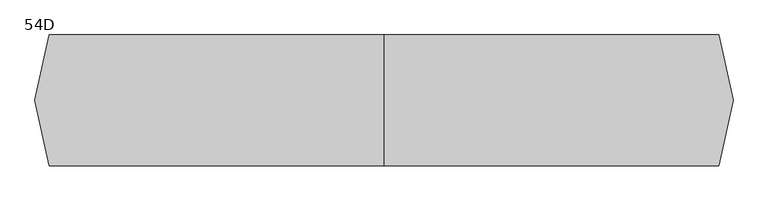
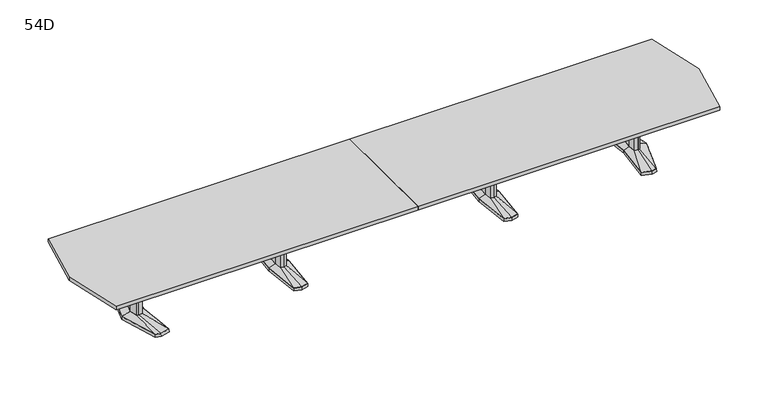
"""IFC4 building model written with IfcOpenShell, lengths in millimetres: furniture geometry, Coalesse_AM_Table_Conference_ETable2_Faceted_24ft_AluminiumBase : 54D."""

import ifcopenshell
import ifcopenshell.guid

model = None  # the IFC model being written
_history = None  # IfcOwnerHistory: only IFC2X3 demands one
_inside = {}  # id of a spatial element -> (the spatial element, [elements in it])
_under = {}  # id of a project, library or spatial element -> (it, [spatial elements below it])
_declared = {}  # id of a project -> (the project, [libraries it declares])
_typed = {}  # id of a type object -> (the type object, [elements of that type])
_made_of = {}  # id of a material, layer set ... -> (it, [elements and type objects made of it])


def new_model(schema):
    """Start an empty IFC model of exactly this schema.

    Asked for "IFC4X3", IfcOpenShell would pick the latest addendum, in which some entities
    have other attributes; the version numbers below select the first issue.
    IFC2X3 requires an IfcOwnerHistory on every rooted entity: one is made here for all.
    """
    global model, _history
    if schema == "IFC4X3":
        model = ifcopenshell.file(schema_version=(4, 3, 0, 0))
    else:
        model = ifcopenshell.file(schema=schema)
    _inside.clear()
    _under.clear()
    _declared.clear()
    _typed.clear()
    _made_of.clear()
    _history = None
    if model.schema == "IFC2X3":
        org = make("IfcOrganization", Name="unknown")
        user = make(
            "IfcPersonAndOrganization",
            ThePerson=make("IfcPerson", FamilyName="unknown"),
            TheOrganization=org,
        )
        app = make(
            "IfcApplication",
            ApplicationDeveloper=org,
            Version="unknown",
            ApplicationFullName="unknown",
            ApplicationIdentifier="unknown",
        )
        _history = make(
            "IfcOwnerHistory",
            OwningUser=user,
            OwningApplication=app,
            ChangeAction="ADDED",
            CreationDate=0,
        )
    return model


def make(cls, **values):
    """One entity of the class cls with the attributes given. An attribute that is None is left unset."""
    return model.create_entity(
        cls, **{name: value for name, value in values.items() if value is not None}
    )


def rooted(cls, **values):
    """An entity with a GlobalId (a new one), such as an element, a storey or a relation."""
    return make(cls, GlobalId=ifcopenshell.guid.new(), OwnerHistory=_history, **values)


def si_unit(unit_type, name, prefix=None):
    """IfcSIUnit, for example si_unit("LENGTHUNIT", "METRE", prefix="MILLI")."""
    return make("IfcSIUnit", UnitType=unit_type, Prefix=prefix, Name=name)


def assignment(units):
    """IfcUnitAssignment: the units of a project."""
    return None if units is None else make("IfcUnitAssignment", Units=units)


def point(xyz):
    """IfcCartesianPoint."""
    return None if xyz is None else make("IfcCartesianPoint", Coordinates=xyz)


def direction(xyz):
    """IfcDirection."""
    return None if xyz is None else make("IfcDirection", DirectionRatios=xyz)


def frame(location, z_axis=None, x_axis=None):
    """IfcAxis2Placement3D, a coordinate frame: its origin and axes. An axis left out is left unset."""
    return make(
        "IfcAxis2Placement3D",
        Location=point(location),
        Axis=direction(z_axis),
        RefDirection=direction(x_axis),
    )


def origin():
    """The frame at (0, 0, 0) with its axes left unset."""
    return frame((0.0, 0.0, 0.0))


def place(relative_to, where):
    """IfcLocalPlacement: puts the frame where relative to a parent placement (None: the world)."""
    return make(
        "IfcLocalPlacement", PlacementRelTo=relative_to, RelativePlacement=where
    )


def context(
    kind, dimensions, precision=None, world=None, true_north=None, identifier=None
):
    """IfcGeometricRepresentationContext, for example the 3D "Model" context."""
    return make(
        "IfcGeometricRepresentationContext",
        ContextIdentifier=identifier,
        ContextType=kind,
        CoordinateSpaceDimension=dimensions,
        Precision=precision,
        WorldCoordinateSystem=world,
        TrueNorth=true_north,
    )


def project(units=None, contexts=None):
    """IfcProject with its units and contexts."""
    return rooted(
        "IfcProject",
        Name="project",
        RepresentationContexts=contexts,
        UnitsInContext=assignment(units),
    )


def spatial(cls, under=None, at=None, **own):
    """A site, building, storey or space (cls), placed at a placement, below another one or the project."""
    s = rooted(cls, ObjectPlacement=at, **own)
    if under is not None:
        _under.setdefault(under.id(), (under, []))[1].append(s)
    return s


def polyline(points):
    """IfcPolyline through the points."""
    return make("IfcPolyline", Points=[point(p) for p in points])


def outline(outer, holes=None, kind="AREA"):
    """IfcArbitraryClosedProfileDef: a profile drawn as a closed curve; with holes, ...WithVoids."""
    if holes is None:
        return make("IfcArbitraryClosedProfileDef", ProfileType=kind, OuterCurve=outer)
    return make(
        "IfcArbitraryProfileDefWithVoids",
        ProfileType=kind,
        OuterCurve=outer,
        InnerCurves=holes,
    )


def extrude(swept, where, along, depth):
    """IfcExtrudedAreaSolid: the profile swept, set in the frame where, extruded along a direction by depth."""
    return make(
        "IfcExtrudedAreaSolid",
        SweptArea=swept,
        Position=where,
        ExtrudedDirection=direction(along),
        Depth=depth,
    )


def faces_of(points, faces, orient=None, outer=None):
    """IfcFace entities. A face is a list of loops; a loop is a list of indices into points, from 0.

    orient and outer hold one flag for each loop. By default every Orientation is true, the
    first loop of a face is its IfcFaceOuterBound and the others are IfcFaceBound.
    """
    made = []
    for i, loops in enumerate(faces):
        bounds = []
        for j, loop in enumerate(loops):
            is_outer = j == 0 if outer is None else outer[i][j]
            bounds.append(
                make(
                    "IfcFaceOuterBound" if is_outer else "IfcFaceBound",
                    Bound=make("IfcPolyLoop", Polygon=[points[k] for k in loop]),
                    Orientation=True if orient is None else orient[i][j],
                )
            )
        made.append(make("IfcFace", Bounds=bounds))
    return made


def faceted_brep(points, faces, orient=None, outer=None, voids=None):
    """IfcFacetedBrep: a solid bounded by flat faces; with voids (closed shells), ...WithVoids."""
    shared = [point(p) for p in points]
    hull = make("IfcClosedShell", CfsFaces=faces_of(shared, faces, orient, outer))
    if voids is None:
        return make("IfcFacetedBrep", Outer=hull)
    return make(
        "IfcFacetedBrepWithVoids",
        Outer=hull,
        Voids=[
            make(cls, CfsFaces=faces_of(shared, fs, o, b)) for cls, fs, o, b in voids
        ],
    )


def shape(context_of_items, identifier, shape_type, items):
    """IfcShapeRepresentation: the items that make up one representation, for example the "Body"."""
    return make(
        "IfcShapeRepresentation",
        ContextOfItems=context_of_items,
        RepresentationIdentifier=identifier,
        RepresentationType=shape_type,
        Items=items,
    )


def source(mapping_origin, context_of_items, identifier, shape_type, items):
    """IfcRepresentationMap: a shape defined once, which mapped items show again and again."""
    return make(
        "IfcRepresentationMap",
        MappingOrigin=mapping_origin,
        MappedRepresentation=shape(context_of_items, identifier, shape_type, items),
    )


def transform(
    local_origin,
    x_axis=None,
    y_axis=None,
    z_axis=None,
    scale=None,
    scale2=None,
    scale3=None,
    uniform=True,
):
    """IfcCartesianTransformationOperator3D, or its non-uniform kind. x_axis, y_axis, z_axis: its Axis1, 2, 3."""
    if uniform:
        return make(
            "IfcCartesianTransformationOperator3D",
            Axis1=direction(x_axis),
            Axis2=direction(y_axis),
            LocalOrigin=point(local_origin),
            Scale=scale,
            Axis3=direction(z_axis),
        )
    return make(
        "IfcCartesianTransformationOperator3DnonUniform",
        Axis1=direction(x_axis),
        Axis2=direction(y_axis),
        LocalOrigin=point(local_origin),
        Scale=scale,
        Axis3=direction(z_axis),
        Scale2=scale2,
        Scale3=scale3,
    )


def mapped(mapping_source, mapping_target):
    """IfcMappedItem: shows the shape of a source again, moved by a transform."""
    return make(
        "IfcMappedItem", MappingSource=mapping_source, MappingTarget=mapping_target
    )


def made_of(thing, what):
    """Note that an element or type object is made of a material, layer set ...; save() writes the relation."""
    if what is not None:
        _made_of.setdefault(what.id(), (what, []))[1].append(thing)
    return thing


def element(
    cls,
    number,
    at=None,
    inside=None,
    cuts=None,
    type_object=None,
    material=None,
    context=None,
    identifier="Body",
    shape_type=None,
    held_by="IfcProductDefinitionShape",
    body=None,
    shapes=None,
    **own,
):
    """One element of the class cls, such as IfcWall. Its Tag is "e" and its number.

    at: its placement. inside: the storey or other place that contains it. cuts: it is an
    opening in that element (IfcRelVoidsElement). A single representation is given by context,
    identifier, shape_type and body (its items); several are given by shapes. held_by: the class
    of the entity that holds the representations. save() writes the other relations.
    """
    e = rooted(cls, Tag="e%d" % number, ObjectPlacement=at, **own)
    if body is not None:
        shapes = [shape(context, identifier, shape_type, body)]
    if shapes is not None:
        e.Representation = make(held_by, Representations=shapes)
    if inside is not None:
        _inside.setdefault(inside.id(), (inside, []))[1].append(e)
    if cuts is not None:
        rooted(
            "IfcRelVoidsElement", RelatingBuildingElement=cuts, RelatedOpeningElement=e
        )
    if type_object is not None:
        _typed.setdefault(type_object.id(), (type_object, []))[1].append(e)
    return made_of(e, material)


def aggregate(whole, parts):
    """IfcRelAggregates: a whole, such as a stair, and the parts it consists of."""
    return rooted("IfcRelAggregates", RelatingObject=whole, RelatedObjects=parts)


def save(model, path):
    """Write the relations noted so far, then the file.

    IfcRelAggregates (storeys below a building ...), IfcRelContainedInSpatialStructure (elements
    in a storey), IfcRelDefinesByType, IfcRelAssociatesMaterial and IfcRelDeclares: one each for
    every whole, place, type object, material and project.
    """
    for whole, parts in _under.values():
        aggregate(whole, parts)
    for where, things in _inside.values():
        rooted(
            "IfcRelContainedInSpatialStructure",
            RelatedElements=things,
            RelatingStructure=where,
        )
    for kind, things in _typed.values():
        rooted("IfcRelDefinesByType", RelatedObjects=things, RelatingType=kind)
    for what, things in _made_of.values():
        rooted("IfcRelAssociatesMaterial", RelatedObjects=things, RelatingMaterial=what)
    for by, libraries in _declared.values():
        rooted("IfcRelDeclares", RelatingContext=by, RelatedDefinitions=libraries)
    model.write(path)


def plane_surface(at):
    """IfcPlane: the flat surface through the origin of the frame at, square to its z axis."""
    return make("IfcPlane", Position=at)


def spline_surface(u_degree, v_degree, points, u_multiplicities, v_multiplicities, u_knots, v_knots, weights=None):
    """IfcBSplineSurfaceWithKnots; with weights, IfcRationalBSplineSurfaceWithKnots. points: one row for each step in u."""
    own = dict(
        UDegree=u_degree,
        VDegree=v_degree,
        ControlPointsList=[[point(p) for p in row] for row in points],
        SurfaceForm="UNSPECIFIED",
        UClosed=False,
        VClosed=False,
        SelfIntersect=False,
        UMultiplicities=u_multiplicities,
        VMultiplicities=v_multiplicities,
        UKnots=u_knots,
        VKnots=v_knots,
        KnotSpec="UNSPECIFIED",
    )
    if weights is None:
        return make("IfcBSplineSurfaceWithKnots", **own)
    return make("IfcRationalBSplineSurfaceWithKnots", WeightsData=weights, **own)


def advanced_brep(points, edges, surfaces, faces):
    """IfcAdvancedBrep: a solid bounded by faces that lie on surfaces and meet in shared edges.

    An edge is (start, end): straight between two places in points (the first is 0);
    or (start, end, curve); or (start, end, curve, False) where it runs against its curve.
    A face is (place in surfaces, loops), or (place, loops, False) where it looks against
    its surface's normal. A loop lists edges by number (the first is 1), with a minus sign
    where the edge is run from its end to its start. The first loop is the outer one.
    """
    corners = [point(p) for p in points]
    vertices = [make("IfcVertexPoint", VertexGeometry=c) for c in corners]
    made = []
    for start, end, *more in edges:
        made.append(
            make(
                "IfcEdgeCurve",
                EdgeStart=vertices[start],
                EdgeEnd=vertices[end],
                EdgeGeometry=more[0] if more else make("IfcPolyline", Points=[corners[start], corners[end]]),
                SameSense=more[1] if len(more) > 1 else True,
            )
        )
    hull = []
    for where, loops, *sense in faces:
        bounds = []
        for j, loop in enumerate(loops):
            ring = [make("IfcOrientedEdge", EdgeElement=made[abs(k) - 1], Orientation=k > 0) for k in loop]
            bounds.append(
                make(
                    "IfcFaceOuterBound" if j == 0 else "IfcFaceBound",
                    Bound=make("IfcEdgeLoop", EdgeList=ring),
                    Orientation=True,
                )
            )
        hull.append(make("IfcAdvancedFace", Bounds=bounds, FaceSurface=surfaces[where], SameSense=sense[0] if sense else True))
    return make("IfcAdvancedBrep", Outer=make("IfcClosedShell", CfsFaces=hull))


def furniture_54d_81510d21(model_context):
    return source(origin(), model_context, "Body", "SolidModel", [
        faceted_brep([(1137.9666209, -433.8053819, 38.1), (1219.2, -455.556576, 38.1), (1300.4333791, -433.8053819, 38.1), (1338.2564774, 0.0, 38.1), (1300.4333791, 433.8053819, 38.1), (1219.2, 455.556576, 38.1), (1137.9666209, 433.8053819, 38.1), (1100.1435226, 0.0, 38.1), (1136.4817205, -435.0512063, 3.175), (1098.55, 0.0, 3.175), (1136.4817205, 435.0512063, 3.175), (1219.2, 457.2, 3.175), (1301.9182795, 435.0512063, 3.175), (1339.85, 0.0, 3.175), (1301.9182795, -435.0512063, 3.175), (1219.2, -457.2, 3.175), (1219.2, 429.2617927, 3.175), (1141.2323194, 408.3850278, 3.175), (1144.4980179, 382.9646737, 3.175), (1219.2, 402.9670094, 3.175), (1293.9019821, 382.9646737, 3.175), (1297.1676806, 408.3850278, 3.175), (1219.2, -429.2617927, 3.175), (1297.1676806, -408.3850278, 3.175), (1293.9019821, -382.9646737, 3.175), (1219.2, -402.9670094, 3.175), (1144.4980179, -382.9646737, 3.175), (1141.2323194, -408.3850278, 3.175), (1147.3425738, 114.6326257, 3.175), (1136.6573924, 0.0, 3.175), (1147.3425738, -114.6326257, 3.175), (1219.2, -133.8761372, 3.175), (1291.0574262, -114.6326257, 3.175), (1301.7426076, 0.0, 3.175), (1291.0574262, 114.6326257, 3.175), (1219.2, 133.8761372, 3.175), (1219.2, 429.2617927, 0.0), (1297.1676806, 408.3850278, 0.0), (1293.9019821, 382.9646737, 0.0), (1219.2, 402.9670094, 0.0), (1144.4980179, 382.9646737, 0.0), (1141.2323194, 408.3850278, 0.0), (1219.2, -429.2617927, 0.0), (1141.2323194, -408.3850278, 0.0), (1144.4980179, -382.9646737, 0.0), (1219.2, -402.9670094, 0.0), (1293.9019821, -382.9646737, 0.0), (1297.1676806, -408.3850278, 0.0), (1147.3425738, 114.6326257, 0.0), (1219.2, 133.8761372, 0.0), (1291.0574262, 114.6326257, 0.0), (1301.7426076, 0.0, 0.0), (1291.0574262, -114.6326257, 0.0), (1219.2, -133.8761372, 0.0), (1147.3425738, -114.6326257, 0.0), (1136.6573924, 0.0, 0.0)], [[[0, 1, 2, 3, 4, 5, 6, 7]], [[8, 9, 10, 11, 12, 13, 14, 15], [16, 17, 18, 19, 20, 21], [22, 23, 24, 25, 26, 27], [28, 29, 30, 31, 32, 33, 34, 35]], [[1, 0, 8, 15]], [[2, 1, 15, 14]], [[3, 2, 14, 13]], [[4, 3, 13, 12]], [[5, 4, 12, 11]], [[6, 5, 11, 10]], [[7, 6, 10, 9]], [[0, 7, 9, 8]], [[36, 37, 38, 39, 40, 41]], [[42, 43, 44, 45, 46, 47]], [[48, 49, 50, 51, 52, 53, 54, 55]], [[36, 41, 17, 16]], [[41, 40, 18, 17]], [[40, 39, 19, 18]], [[39, 38, 20, 19]], [[38, 37, 21, 20]], [[37, 36, 16, 21]], [[42, 47, 23, 22]], [[47, 46, 24, 23]], [[46, 45, 25, 24]], [[45, 44, 26, 25]], [[44, 43, 27, 26]], [[43, 42, 22, 27]], [[48, 55, 29, 28]], [[55, 54, 30, 29]], [[54, 53, 31, 30]], [[53, 52, 32, 31]], [[52, 51, 33, 32]], [[51, 50, 34, 33]], [[50, 49, 35, 34]], [[49, 48, 28, 35]]]),
        faceted_brep([(1182.8167166, 84.6900825, 698.5), (1174.9225513, 0.0, 698.5), (1182.8167166, -84.6900825, 698.5), (1219.2, -94.4335728, 698.5), (1255.5832834, -84.6900825, 698.5), (1263.4774487, 0.0, 698.5), (1255.5832834, 84.6900825, 698.5), (1219.2, 94.4335728, 698.5), (1182.8167166, 84.6900825, 63.5), (1219.2, 94.4335728, 63.5), (1255.5832834, 84.6900825, 63.5), (1263.4774487, 0.0, 63.5), (1255.5832834, -84.6900825, 63.5), (1219.2, -94.4335728, 63.5), (1182.8167166, -84.6900825, 63.5), (1174.9225513, 0.0, 63.5)], [[[0, 1, 2, 3, 4, 5, 6, 7]], [[8, 9, 10, 11, 12, 13, 14, 15]], [[1, 0, 8, 15]], [[2, 1, 15, 14]], [[3, 2, 14, 13]], [[4, 3, 13, 12]], [[5, 4, 12, 11]], [[6, 5, 11, 10]], [[7, 6, 10, 9]], [[0, 7, 9, 8]]]),
        advanced_brep(
        [(1182.8167166, 84.6900825, 63.5), (1174.9225513, 0.0, 63.5), (1182.8167166, -84.6900825, 63.5), (1219.2, -94.4335728, 63.5), (1255.5832834, -84.6900825, 63.5), (1263.4774487, 0.0, 63.5), (1255.5832834, 84.6900825, 63.5), (1219.2, 94.4335728, 63.5), (1137.9666209, 433.8053819, 38.1), (1219.2, 455.556576, 38.1), (1300.4333791, 433.8053819, 38.1), (1338.2564774, 0.0, 38.1), (1300.4333791, -433.8053819, 38.1), (1219.2, -455.556576, 38.1), (1137.9666209, -433.8053819, 38.1), (1100.1435226, 0.0, 38.1)],
        [
            (0, 1),
            (1, 2),
            (2, 3),
            (3, 4),
            (4, 5),
            (5, 6),
            (6, 7),
            (7, 0),
            (8, 9),
            (9, 10),
            (10, 11),
            (11, 12),
            (12, 13),
            (13, 14),
            (14, 15),
            (15, 8),
            (15, 1),
            (0, 8),
            (14, 2),
            (13, 3),
            (12, 4),
            (11, 5),
            (10, 6),
            (9, 7),
        ],
        [
            plane_surface(frame((1219.2, 0.0, 63.5), z_axis=(0.0, 0.0, 1.0000000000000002), x_axis=(-0.9659615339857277, -0.25868574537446, 0.0))),
            plane_surface(frame((1219.2, 0.0, 38.1), z_axis=(0.0, 0.0, -1.0000000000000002), x_axis=(-0.9659615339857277, -0.25868574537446, 0.0))),
            spline_surface(1, 1, [[(1137.9666209, 433.8053819, 38.1), (1182.8167166, 84.6900825, 63.5)], [(1100.1435226, 0.0, 38.1), (1174.9225513, 0.0, 63.5)]], [2, 2], [2, 2], [0.0, 1.0], [0.0, 1.0]),
            spline_surface(1, 1, [[(1100.1435226, 0.0, 38.1), (1174.9225513, 0.0, 63.5)], [(1137.9666209, -433.8053819, 38.1), (1182.8167166, -84.6900825, 63.5)]], [2, 2], [2, 2], [0.0, 1.0], [0.0, 1.0]),
            spline_surface(1, 1, [[(1137.9666209, -433.8053819, 38.1), (1182.8167166, -84.6900825, 63.5)], [(1219.2, -455.556576, 38.1), (1219.2, -94.4335728, 63.5)]], [2, 2], [2, 2], [0.0, 1.0], [0.0, 1.0]),
            spline_surface(1, 1, [[(1219.2, -455.556576, 38.1), (1219.2, -94.4335728, 63.5)], [(1300.4333791, -433.8053819, 38.1), (1255.5832834, -84.6900825, 63.5)]], [2, 2], [2, 2], [0.0, 1.0], [0.0, 1.0]),
            spline_surface(1, 1, [[(1300.4333791, -433.8053819, 38.1), (1255.5832834, -84.6900825, 63.5)], [(1338.2564774, 0.0, 38.1), (1263.4774487, 0.0, 63.5)]], [2, 2], [2, 2], [0.0, 1.0], [0.0, 1.0]),
            spline_surface(1, 1, [[(1338.2564774, 0.0, 38.1), (1263.4774487, 0.0, 63.5)], [(1300.4333791, 433.8053819, 38.1), (1255.5832834, 84.6900825, 63.5)]], [2, 2], [2, 2], [0.0, 1.0], [0.0, 1.0]),
            spline_surface(1, 1, [[(1300.4333791, 433.8053819, 38.1), (1255.5832834, 84.6900825, 63.5)], [(1219.2, 455.556576, 38.1), (1219.2, 94.4335728, 63.5)]], [2, 2], [2, 2], [0.0, 1.0], [0.0, 1.0]),
            spline_surface(1, 1, [[(1219.2, 455.556576, 38.1), (1219.2, 94.4335728, 63.5)], [(1137.9666209, 433.8053819, 38.1), (1182.8167166, 84.6900825, 63.5)]], [2, 2], [2, 2], [0.0, 1.0], [0.0, 1.0]),
        ],
        [
            (0, [[1, 2, 3, 4, 5, 6, 7, 8]]),
            (1, [[9, 10, 11, 12, 13, 14, 15, 16]]),
            (2, [[-16, 17, -1, 18]]),
            (3, [[-15, 19, -2, -17]]),
            (4, [[-14, 20, -3, -19]]),
            (5, [[-13, 21, -4, -20]]),
            (6, [[-12, 22, -5, -21]]),
            (7, [[-11, 23, -6, -22]]),
            (8, [[-10, 24, -7, -23]]),
            (9, [[-9, -18, -8, -24]]),
        ],
    ),
        faceted_brep([(-1300.4333791, -433.8053819, 38.1), (-1219.2, -455.556576, 38.1), (-1137.9666209, -433.8053819, 38.1), (-1100.1435226, 0.0, 38.1), (-1137.9666209, 433.8053819, 38.1), (-1219.2, 455.556576, 38.1), (-1300.4333791, 433.8053819, 38.1), (-1338.2564774, 0.0, 38.1), (-1301.9182795, -435.0512063, 3.175), (-1339.85, 0.0, 3.175), (-1301.9182795, 435.0512063, 3.175), (-1219.2, 457.2, 3.175), (-1136.4817205, 435.0512063, 3.175), (-1098.55, 0.0, 3.175), (-1136.4817205, -435.0512063, 3.175), (-1219.2, -457.2, 3.175), (-1219.2, 429.2617927, 3.175), (-1297.1676806, 408.3850278, 3.175), (-1293.9019821, 382.9646737, 3.175), (-1219.2, 402.9670094, 3.175), (-1144.4980179, 382.9646737, 3.175), (-1141.2323194, 408.3850278, 3.175), (-1219.2, -429.2617927, 3.175), (-1141.2323194, -408.3850278, 3.175), (-1144.4980179, -382.9646737, 3.175), (-1219.2, -402.9670094, 3.175), (-1293.9019821, -382.9646737, 3.175), (-1297.1676806, -408.3850278, 3.175), (-1291.0574262, 114.6326257, 3.175), (-1301.7426076, 0.0, 3.175), (-1291.0574262, -114.6326257, 3.175), (-1219.2, -133.8761372, 3.175), (-1147.3425738, -114.6326257, 3.175), (-1136.6573924, 0.0, 3.175), (-1147.3425738, 114.6326257, 3.175), (-1219.2, 133.8761372, 3.175), (-1219.2, 429.2617927, 0.0), (-1141.2323194, 408.3850278, 0.0), (-1144.4980179, 382.9646737, 0.0), (-1219.2, 402.9670094, 0.0), (-1293.9019821, 382.9646737, 0.0), (-1297.1676806, 408.3850278, 0.0), (-1219.2, -429.2617927, 0.0), (-1297.1676806, -408.3850278, 0.0), (-1293.9019821, -382.9646737, 0.0), (-1219.2, -402.9670094, 0.0), (-1144.4980179, -382.9646737, 0.0), (-1141.2323194, -408.3850278, 0.0), (-1291.0574262, 114.6326257, 0.0), (-1219.2, 133.8761372, 0.0), (-1147.3425738, 114.6326257, 0.0), (-1136.6573924, 0.0, 0.0), (-1147.3425738, -114.6326257, 0.0), (-1219.2, -133.8761372, 0.0), (-1291.0574262, -114.6326257, 0.0), (-1301.7426076, 0.0, 0.0)], [[[0, 1, 2, 3, 4, 5, 6, 7]], [[8, 9, 10, 11, 12, 13, 14, 15], [16, 17, 18, 19, 20, 21], [22, 23, 24, 25, 26, 27], [28, 29, 30, 31, 32, 33, 34, 35]], [[1, 0, 8, 15]], [[2, 1, 15, 14]], [[3, 2, 14, 13]], [[4, 3, 13, 12]], [[5, 4, 12, 11]], [[6, 5, 11, 10]], [[7, 6, 10, 9]], [[0, 7, 9, 8]], [[36, 37, 38, 39, 40, 41]], [[42, 43, 44, 45, 46, 47]], [[48, 49, 50, 51, 52, 53, 54, 55]], [[36, 41, 17, 16]], [[41, 40, 18, 17]], [[40, 39, 19, 18]], [[39, 38, 20, 19]], [[38, 37, 21, 20]], [[37, 36, 16, 21]], [[42, 47, 23, 22]], [[47, 46, 24, 23]], [[46, 45, 25, 24]], [[45, 44, 26, 25]], [[44, 43, 27, 26]], [[43, 42, 22, 27]], [[48, 55, 29, 28]], [[55, 54, 30, 29]], [[54, 53, 31, 30]], [[53, 52, 32, 31]], [[52, 51, 33, 32]], [[51, 50, 34, 33]], [[50, 49, 35, 34]], [[49, 48, 28, 35]]]),
        faceted_brep([(-1255.5832834, 84.6900825, 698.5), (-1263.4774487, 0.0, 698.5), (-1255.5832834, -84.6900825, 698.5), (-1219.2, -94.4335728, 698.5), (-1182.8167166, -84.6900825, 698.5), (-1174.9225513, 0.0, 698.5), (-1182.8167166, 84.6900825, 698.5), (-1219.2, 94.4335728, 698.5), (-1255.5832834, 84.6900825, 63.5), (-1219.2, 94.4335728, 63.5), (-1182.8167166, 84.6900825, 63.5), (-1174.9225513, 0.0, 63.5), (-1182.8167166, -84.6900825, 63.5), (-1219.2, -94.4335728, 63.5), (-1255.5832834, -84.6900825, 63.5), (-1263.4774487, 0.0, 63.5)], [[[0, 1, 2, 3, 4, 5, 6, 7]], [[8, 9, 10, 11, 12, 13, 14, 15]], [[1, 0, 8, 15]], [[2, 1, 15, 14]], [[3, 2, 14, 13]], [[4, 3, 13, 12]], [[5, 4, 12, 11]], [[6, 5, 11, 10]], [[7, 6, 10, 9]], [[0, 7, 9, 8]]]),
        advanced_brep(
        [(-1255.5832834, 84.6900825, 63.5), (-1263.4774487, 0.0, 63.5), (-1255.5832834, -84.6900825, 63.5), (-1219.2, -94.4335728, 63.5), (-1182.8167166, -84.6900825, 63.5), (-1174.9225513, 0.0, 63.5), (-1182.8167166, 84.6900825, 63.5), (-1219.2, 94.4335728, 63.5), (-1300.4333791, 433.8053819, 38.1), (-1219.2, 455.556576, 38.1), (-1137.9666209, 433.8053819, 38.1), (-1100.1435226, 0.0, 38.1), (-1137.9666209, -433.8053819, 38.1), (-1219.2, -455.556576, 38.1), (-1300.4333791, -433.8053819, 38.1), (-1338.2564774, 0.0, 38.1)],
        [
            (0, 1),
            (1, 2),
            (2, 3),
            (3, 4),
            (4, 5),
            (5, 6),
            (6, 7),
            (7, 0),
            (8, 9),
            (9, 10),
            (10, 11),
            (11, 12),
            (12, 13),
            (13, 14),
            (14, 15),
            (15, 8),
            (15, 1),
            (0, 8),
            (14, 2),
            (13, 3),
            (12, 4),
            (11, 5),
            (10, 6),
            (9, 7),
        ],
        [
            plane_surface(frame((-1219.2, 0.0, 63.5), z_axis=(0.0, 0.0, 1.0000000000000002), x_axis=(-0.9659615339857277, -0.25868574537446, 0.0))),
            plane_surface(frame((-1219.2, 0.0, 38.1), z_axis=(0.0, 0.0, -1.0000000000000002), x_axis=(-0.9659615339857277, -0.25868574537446, 0.0))),
            spline_surface(1, 1, [[(-1300.4333791, 433.8053819, 38.1), (-1255.5832834, 84.6900825, 63.5)], [(-1338.2564774, 0.0, 38.1), (-1263.4774487, 0.0, 63.5)]], [2, 2], [2, 2], [0.0, 1.0], [0.0, 1.0]),
            spline_surface(1, 1, [[(-1338.2564774, 0.0, 38.1), (-1263.4774487, 0.0, 63.5)], [(-1300.4333791, -433.8053819, 38.1), (-1255.5832834, -84.6900825, 63.5)]], [2, 2], [2, 2], [0.0, 1.0], [0.0, 1.0]),
            spline_surface(1, 1, [[(-1300.4333791, -433.8053819, 38.1), (-1255.5832834, -84.6900825, 63.5)], [(-1219.2, -455.556576, 38.1), (-1219.2, -94.4335728, 63.5)]], [2, 2], [2, 2], [0.0, 1.0], [0.0, 1.0]),
            spline_surface(1, 1, [[(-1219.2, -455.556576, 38.1), (-1219.2, -94.4335728, 63.5)], [(-1137.9666209, -433.8053819, 38.1), (-1182.8167166, -84.6900825, 63.5)]], [2, 2], [2, 2], [0.0, 1.0], [0.0, 1.0]),
            spline_surface(1, 1, [[(-1137.9666209, -433.8053819, 38.1), (-1182.8167166, -84.6900825, 63.5)], [(-1100.1435226, 0.0, 38.1), (-1174.9225513, 0.0, 63.5)]], [2, 2], [2, 2], [0.0, 1.0], [0.0, 1.0]),
            spline_surface(1, 1, [[(-1100.1435226, 0.0, 38.1), (-1174.9225513, 0.0, 63.5)], [(-1137.9666209, 433.8053819, 38.1), (-1182.8167166, 84.6900825, 63.5)]], [2, 2], [2, 2], [0.0, 1.0], [0.0, 1.0]),
            spline_surface(1, 1, [[(-1137.9666209, 433.8053819, 38.1), (-1182.8167166, 84.6900825, 63.5)], [(-1219.2, 455.556576, 38.1), (-1219.2, 94.4335728, 63.5)]], [2, 2], [2, 2], [0.0, 1.0], [0.0, 1.0]),
            spline_surface(1, 1, [[(-1219.2, 455.556576, 38.1), (-1219.2, 94.4335728, 63.5)], [(-1300.4333791, 433.8053819, 38.1), (-1255.5832834, 84.6900825, 63.5)]], [2, 2], [2, 2], [0.0, 1.0], [0.0, 1.0]),
        ],
        [
            (0, [[1, 2, 3, 4, 5, 6, 7, 8]]),
            (1, [[9, 10, 11, 12, 13, 14, 15, 16]]),
            (2, [[-16, 17, -1, 18]]),
            (3, [[-15, 19, -2, -17]]),
            (4, [[-14, 20, -3, -19]]),
            (5, [[-13, 21, -4, -20]]),
            (6, [[-12, 22, -5, -21]]),
            (7, [[-11, 23, -6, -22]]),
            (8, [[-10, 24, -7, -23]]),
            (9, [[-9, -18, -8, -24]]),
        ],
    ),
        faceted_brep([(2852.8994335, 455.5848221, 38.1), (2743.3218777, 426.2263816, 38.1), (2784.4851217, 0.0, 38.1), (2743.3218777, -426.2263816, 38.1), (2852.8994335, -455.5848221, 38.1), (2909.0257896, -440.5478297, 38.1), (3046.3371769, 0.0, 38.1), (2909.0257896, 440.5478297, 38.1), (2852.8994254, 457.2283104, 3.175), (2910.2811972, 441.8549756, 3.175), (3048.0, 0.0, 3.175), (2910.2811972, -441.8549756, 3.175), (2852.8994254, -457.2283104, 3.175), (2741.6125, -427.4118891, 3.175), (2782.8902356, 0.0, 3.175), (2741.6125, 427.4118891, 3.175), (2856.488865, 428.3273875, 3.175), (2751.4405728, 402.1057253, 3.175), (2759.559268, 377.985069, 3.175), (2860.0782966, 401.0699529, 3.175), (2910.6379225, 387.524361, 3.175), (2909.8318561, 414.0360954, 3.175), (2856.488865, -428.3273875, 3.175), (2909.8318561, -414.0360954, 3.175), (2910.6379225, -387.524361, 3.175), (2860.0782966, -401.0699529, 3.175), (2759.559268, -377.985069, 3.175), (2751.4405728, -402.1057253, 3.175), (2983.0841121, 0.0, 3.175), (2950.8147111, 120.4193755, 3.175), (2902.1674722, 133.471665, 3.175), (2822.2868026, 119.4176561, 3.175), (2811.1555966, 0.0, 3.175), (2822.2868026, -119.4176561, 3.175), (2902.1674722, -133.471665, 3.175), (2950.8147111, -120.4193755, 3.175), (2856.488865, 428.3273875, 0.0), (2909.8318561, 414.0360954, 0.0), (2910.6379225, 387.524361, 0.0), (2860.0782966, 401.0699529, 0.0), (2759.559268, 377.985069, 0.0), (2751.4405728, 402.1057253, 0.0), (2856.488865, -428.3273875, 0.0), (2751.4405728, -402.1057253, 0.0), (2759.559268, -377.985069, 0.0), (2860.0782966, -401.0699529, 0.0), (2910.6379225, -387.524361, 0.0), (2909.8318561, -414.0360954, 0.0), (2983.0841121, 0.0, 0.0), (2950.8147111, -120.4193755, 0.0), (2902.1674722, -133.471665, 0.0), (2822.2868026, -119.4176561, 0.0), (2811.1555966, 0.0, 0.0), (2822.2868026, 119.4176561, 0.0), (2902.1674722, 133.471665, 0.0), (2950.8147111, 120.4193755, 0.0)], [[[0, 1, 2, 3, 4, 5, 6, 7]], [[8, 9, 10, 11, 12, 13, 14, 15], [16, 17, 18, 19, 20, 21], [22, 23, 24, 25, 26, 27], [28, 29, 30, 31, 32, 33, 34, 35]], [[7, 9, 8, 0]], [[6, 10, 9, 7]], [[5, 11, 10, 6]], [[4, 12, 11, 5]], [[3, 13, 12, 4]], [[2, 14, 13, 3]], [[1, 15, 14, 2]], [[0, 8, 15, 1]], [[36, 37, 38, 39, 40, 41]], [[42, 43, 44, 45, 46, 47]], [[48, 49, 50, 51, 52, 53, 54, 55]], [[36, 16, 21, 37]], [[37, 21, 20, 38]], [[38, 20, 19, 39]], [[39, 19, 18, 40]], [[40, 18, 17, 41]], [[41, 17, 16, 36]], [[42, 22, 27, 43]], [[43, 27, 26, 44]], [[44, 26, 25, 45]], [[45, 25, 24, 46]], [[46, 24, 23, 47]], [[47, 23, 22, 42]], [[48, 28, 35, 49]], [[49, 35, 34, 50]], [[50, 34, 33, 51]], [[51, 33, 32, 52]], [[52, 32, 31, 53]], [[53, 31, 30, 54]], [[54, 30, 29, 55]], [[55, 29, 28, 48]]]),
        faceted_brep([(2943.6398336, 0.0, 698.5), (2919.7046046, 89.3188359, 698.5), (2902.8512484, 93.8406728, 698.5), (2900.4514011, 94.4845635, 698.5), (2857.523896, 86.9320037, 698.5), (2849.4207556, 0.0, 698.5), (2857.523896, -86.9320037, 698.5), (2900.4514011, -94.4845635, 698.5), (2902.8512484, -93.8406728, 698.5), (2919.7046046, -89.3188359, 698.5), (2943.6398336, 0.0, 63.5), (2919.7046046, -89.3188359, 63.5), (2902.8512484, -93.8406728, 63.5), (2900.4514011, -94.4845635, 63.5), (2857.523896, -86.9320037, 63.5), (2849.4207556, 0.0, 63.5), (2857.523896, 86.9320037, 63.5), (2900.4514011, 94.4845635, 63.5), (2902.8512484, 93.8406728, 63.5), (2919.7046046, 89.3188359, 63.5)], [[[0, 1, 2, 3, 4, 5, 6, 7, 8, 9]], [[10, 11, 12, 13, 14, 15, 16, 17, 18, 19]], [[9, 11, 10, 0]], [[8, 12, 11, 9]], [[7, 13, 12, 8]], [[6, 14, 13, 7]], [[5, 15, 14, 6]], [[4, 16, 15, 5]], [[3, 17, 16, 4]], [[2, 18, 17, 3]], [[1, 19, 18, 2]], [[0, 10, 19, 1]]]),
        advanced_brep(
        [(2900.4514011, 94.4845635, 63.5), (2857.523896, 86.9320037, 63.5), (2849.4207556, 0.0, 63.5), (2857.523896, -86.9320037, 63.5), (2900.4514011, -94.4845635, 63.5), (2919.7046046, -89.3188359, 63.5), (2943.6398336, 0.0, 63.5), (2919.7046046, 89.3188359, 63.5), (2852.8994335, 455.5848221, 38.1), (2909.0257896, 440.5478297, 38.1), (3046.3371769, 0.0, 38.1), (2909.0257896, -440.5478297, 38.1), (2852.8994335, -455.5848221, 38.1), (2743.3218777, -426.2263816, 38.1), (2784.4851217, 0.0, 38.1), (2743.3218777, 426.2263816, 38.1)],
        [
            (0, 1),
            (1, 2),
            (2, 3),
            (3, 4),
            (4, 5),
            (5, 6),
            (6, 7),
            (7, 0),
            (8, 9),
            (9, 10),
            (10, 11),
            (11, 12),
            (12, 13),
            (13, 14),
            (14, 15),
            (15, 8),
            (8, 0),
            (7, 9),
            (6, 10),
            (5, 11),
            (4, 12),
            (3, 13),
            (2, 14),
            (1, 15),
        ],
        [
            plane_surface(frame((2893.5525491, 0.0, 63.5), z_axis=(0.0, 0.0, 1.0), x_axis=(-0.25884244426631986, -0.9659195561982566, 0.0))),
            plane_surface(frame((2855.1645625, 0.0, 38.1), z_axis=(0.0, 0.0, -1.0), x_axis=(-0.25884244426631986, -0.9659195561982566, 0.0))),
            spline_surface(1, 1, [[(2852.8994335, 455.5848221, 38.1), (2909.0257896, 440.5478297, 38.1)], [(2900.4514011, 94.4845635, 63.5), (2919.7046046, 89.3188359, 63.5)]], [2, 2], [2, 2], [0.0, 1.0], [0.0, 1.0]),
            spline_surface(1, 1, [[(2909.0257896, 440.5478297, 38.1), (3046.3371769, 0.0, 38.1)], [(2919.7046046, 89.3188359, 63.5), (2943.6398336, 0.0, 63.5)]], [2, 2], [2, 2], [0.0, 1.0], [0.0, 1.0]),
            spline_surface(1, 1, [[(3046.3371769, 0.0, 38.1), (2909.0257896, -440.5478297, 38.1)], [(2943.6398336, 0.0, 63.5), (2919.7046046, -89.3188359, 63.5)]], [2, 2], [2, 2], [0.0, 1.0], [0.0, 1.0]),
            spline_surface(1, 1, [[(2909.0257896, -440.5478297, 38.1), (2852.8994335, -455.5848221, 38.1)], [(2919.7046046, -89.3188359, 63.5), (2900.4514011, -94.4845635, 63.5)]], [2, 2], [2, 2], [0.0, 1.0], [0.0, 1.0]),
            spline_surface(1, 1, [[(2852.8994335, -455.5848221, 38.1), (2743.3218777, -426.2263816, 38.1)], [(2900.4514011, -94.4845635, 63.5), (2857.523896, -86.9320037, 63.5)]], [2, 2], [2, 2], [0.0, 1.0], [0.0, 1.0]),
            spline_surface(1, 1, [[(2743.3218777, -426.2263816, 38.1), (2784.4851217, 0.0, 38.1)], [(2857.523896, -86.9320037, 63.5), (2849.4207556, 0.0, 63.5)]], [2, 2], [2, 2], [0.0, 1.0], [0.0, 1.0]),
            spline_surface(1, 1, [[(2784.4851217, 0.0, 38.1), (2743.3218777, 426.2263816, 38.1)], [(2849.4207556, 0.0, 63.5), (2857.523896, 86.9320037, 63.5)]], [2, 2], [2, 2], [0.0, 1.0], [0.0, 1.0]),
            spline_surface(1, 1, [[(2743.3218777, 426.2263816, 38.1), (2852.8994335, 455.5848221, 38.1)], [(2857.523896, 86.9320037, 63.5), (2900.4514011, 94.4845635, 63.5)]], [2, 2], [2, 2], [0.0, 1.0], [0.0, 1.0]),
        ],
        [
            (0, [[1, 2, 3, 4, 5, 6, 7, 8]]),
            (1, [[9, 10, 11, 12, 13, 14, 15, 16]]),
            (2, [[17, -8, 18, -9]]),
            (3, [[-18, -7, 19, -10]]),
            (4, [[-19, -6, 20, -11]]),
            (5, [[-20, -5, 21, -12]]),
            (6, [[-21, -4, 22, -13]]),
            (7, [[-22, -3, 23, -14]]),
            (8, [[-23, -2, 24, -15]]),
            (9, [[-24, -1, -17, -16]]),
        ],
    ),
        faceted_brep([(-2852.8994335, 455.5848221, 38.1), (-2909.0257896, 440.5478297, 38.1), (-3046.3371769, 0.0, 38.1), (-2909.0257896, -440.5478297, 38.1), (-2852.8994335, -455.5848221, 38.1), (-2743.3218777, -426.2263816, 38.1), (-2784.4851217, 0.0, 38.1), (-2743.3218777, 426.2263816, 38.1), (-2852.8994254, 457.2283104, 3.175), (-2741.6125, 427.4118891, 3.175), (-2782.8902356, 0.0, 3.175), (-2741.6125, -427.4118891, 3.175), (-2852.8994254, -457.2283104, 3.175), (-2910.2811972, -441.8549756, 3.175), (-3048.0, 0.0, 3.175), (-2910.2811972, 441.8549756, 3.175), (-2856.488865, 428.3273875, 3.175), (-2909.8318561, 414.0360954, 3.175), (-2910.6379225, 387.524361, 3.175), (-2860.0782966, 401.0699529, 3.175), (-2759.559268, 377.985069, 3.175), (-2751.4405728, 402.1057253, 3.175), (-2856.488865, -428.3273875, 3.175), (-2751.4405728, -402.1057253, 3.175), (-2759.559268, -377.985069, 3.175), (-2860.0782966, -401.0699529, 3.175), (-2910.6379225, -387.524361, 3.175), (-2909.8318561, -414.0360954, 3.175), (-2983.0841121, 0.0, 3.175), (-2950.8147111, -120.4193755, 3.175), (-2902.1674722, -133.471665, 3.175), (-2822.2868026, -119.4176561, 3.175), (-2811.1555966, 0.0, 3.175), (-2822.2868026, 119.4176561, 3.175), (-2902.1674722, 133.471665, 3.175), (-2950.8147111, 120.4193755, 3.175), (-2856.488865, 428.3273875, 0.0), (-2751.4405728, 402.1057253, 0.0), (-2759.559268, 377.985069, 0.0), (-2860.0782966, 401.0699529, 0.0), (-2910.6379225, 387.524361, 0.0), (-2909.8318561, 414.0360954, 0.0), (-2856.488865, -428.3273875, 0.0), (-2909.8318561, -414.0360954, 0.0), (-2910.6379225, -387.524361, 0.0), (-2860.0782966, -401.0699529, 0.0), (-2759.559268, -377.985069, 0.0), (-2751.4405728, -402.1057253, 0.0), (-2983.0841121, 0.0, 0.0), (-2950.8147111, 120.4193755, 0.0), (-2902.1674722, 133.471665, 0.0), (-2822.2868026, 119.4176561, 0.0), (-2811.1555966, 0.0, 0.0), (-2822.2868026, -119.4176561, 0.0), (-2902.1674722, -133.471665, 0.0), (-2950.8147111, -120.4193755, 0.0)], [[[0, 1, 2, 3, 4, 5, 6, 7]], [[8, 9, 10, 11, 12, 13, 14, 15], [16, 17, 18, 19, 20, 21], [22, 23, 24, 25, 26, 27], [28, 29, 30, 31, 32, 33, 34, 35]], [[1, 0, 8, 15]], [[2, 1, 15, 14]], [[3, 2, 14, 13]], [[4, 3, 13, 12]], [[5, 4, 12, 11]], [[6, 5, 11, 10]], [[7, 6, 10, 9]], [[0, 7, 9, 8]], [[36, 37, 38, 39, 40, 41]], [[42, 43, 44, 45, 46, 47]], [[48, 49, 50, 51, 52, 53, 54, 55]], [[36, 41, 17, 16]], [[41, 40, 18, 17]], [[40, 39, 19, 18]], [[39, 38, 20, 19]], [[38, 37, 21, 20]], [[37, 36, 16, 21]], [[42, 47, 23, 22]], [[47, 46, 24, 23]], [[46, 45, 25, 24]], [[45, 44, 26, 25]], [[44, 43, 27, 26]], [[43, 42, 22, 27]], [[48, 55, 29, 28]], [[55, 54, 30, 29]], [[54, 53, 31, 30]], [[53, 52, 32, 31]], [[52, 51, 33, 32]], [[51, 50, 34, 33]], [[50, 49, 35, 34]], [[49, 48, 28, 35]]]),
        faceted_brep([(-2943.6398336, 0.0, 698.5), (-2919.7046046, -89.3188359, 698.5), (-2902.8512484, -93.8406728, 698.5), (-2900.4514011, -94.4845635, 698.5), (-2857.523896, -86.9320037, 698.5), (-2849.4207556, 0.0, 698.5), (-2857.523896, 86.9320037, 698.5), (-2900.4514011, 94.4845635, 698.5), (-2902.8512484, 93.8406728, 698.5), (-2919.7046046, 89.3188359, 698.5), (-2943.6398336, 0.0, 63.5), (-2919.7046046, 89.3188359, 63.5), (-2902.8512484, 93.8406728, 63.5), (-2900.4514011, 94.4845635, 63.5), (-2857.523896, 86.9320037, 63.5), (-2849.4207556, 0.0, 63.5), (-2857.523896, -86.9320037, 63.5), (-2900.4514011, -94.4845635, 63.5), (-2902.8512484, -93.8406728, 63.5), (-2919.7046046, -89.3188359, 63.5)], [[[0, 1, 2, 3, 4, 5, 6, 7, 8, 9]], [[10, 11, 12, 13, 14, 15, 16, 17, 18, 19]], [[1, 0, 10, 19]], [[2, 1, 19, 18]], [[3, 2, 18, 17]], [[4, 3, 17, 16]], [[5, 4, 16, 15]], [[6, 5, 15, 14]], [[7, 6, 14, 13]], [[8, 7, 13, 12]], [[9, 8, 12, 11]], [[0, 9, 11, 10]]]),
        advanced_brep(
        [(-2900.4514011, 94.4845635, 63.5), (-2919.7046046, 89.3188359, 63.5), (-2943.6398336, 0.0, 63.5), (-2919.7046046, -89.3188359, 63.5), (-2900.4514011, -94.4845635, 63.5), (-2857.523896, -86.9320037, 63.5), (-2849.4207556, 0.0, 63.5), (-2857.523896, 86.9320037, 63.5), (-2852.8994335, 455.5848221, 38.1), (-2743.3218777, 426.2263816, 38.1), (-2784.4851217, 0.0, 38.1), (-2743.3218777, -426.2263816, 38.1), (-2852.8994335, -455.5848221, 38.1), (-2909.0257896, -440.5478297, 38.1), (-3046.3371769, 0.0, 38.1), (-2909.0257896, 440.5478297, 38.1)],
        [
            (0, 1),
            (1, 2),
            (2, 3),
            (3, 4),
            (4, 5),
            (5, 6),
            (6, 7),
            (7, 0),
            (8, 9),
            (9, 10),
            (10, 11),
            (11, 12),
            (12, 13),
            (13, 14),
            (14, 15),
            (15, 8),
            (15, 1),
            (0, 8),
            (14, 2),
            (13, 3),
            (12, 4),
            (11, 5),
            (10, 6),
            (9, 7),
        ],
        [
            plane_surface(frame((-2893.5525491, 0.0, 63.5), z_axis=(0.0, 0.0, 1.0), x_axis=(0.25884244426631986, -0.9659195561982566, 0.0))),
            plane_surface(frame((-2855.1645625, 0.0, 38.1), z_axis=(0.0, 0.0, -1.0), x_axis=(0.25884244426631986, -0.9659195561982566, 0.0))),
            spline_surface(1, 1, [[(-2852.8994335, 455.5848221, 38.1), (-2900.4514011, 94.4845635, 63.5)], [(-2909.0257896, 440.5478297, 38.1), (-2919.7046046, 89.3188359, 63.5)]], [2, 2], [2, 2], [0.0, 1.0], [0.0, 1.0]),
            spline_surface(1, 1, [[(-2909.0257896, 440.5478297, 38.1), (-2919.7046046, 89.3188359, 63.5)], [(-3046.3371769, 0.0, 38.1), (-2943.6398336, 0.0, 63.5)]], [2, 2], [2, 2], [0.0, 1.0], [0.0, 1.0]),
            spline_surface(1, 1, [[(-3046.3371769, 0.0, 38.1), (-2943.6398336, 0.0, 63.5)], [(-2909.0257896, -440.5478297, 38.1), (-2919.7046046, -89.3188359, 63.5)]], [2, 2], [2, 2], [0.0, 1.0], [0.0, 1.0]),
            spline_surface(1, 1, [[(-2909.0257896, -440.5478297, 38.1), (-2919.7046046, -89.3188359, 63.5)], [(-2852.8994335, -455.5848221, 38.1), (-2900.4514011, -94.4845635, 63.5)]], [2, 2], [2, 2], [0.0, 1.0], [0.0, 1.0]),
            spline_surface(1, 1, [[(-2852.8994335, -455.5848221, 38.1), (-2900.4514011, -94.4845635, 63.5)], [(-2743.3218777, -426.2263816, 38.1), (-2857.523896, -86.9320037, 63.5)]], [2, 2], [2, 2], [0.0, 1.0], [0.0, 1.0]),
            spline_surface(1, 1, [[(-2743.3218777, -426.2263816, 38.1), (-2857.523896, -86.9320037, 63.5)], [(-2784.4851217, 0.0, 38.1), (-2849.4207556, 0.0, 63.5)]], [2, 2], [2, 2], [0.0, 1.0], [0.0, 1.0]),
            spline_surface(1, 1, [[(-2784.4851217, 0.0, 38.1), (-2849.4207556, 0.0, 63.5)], [(-2743.3218777, 426.2263816, 38.1), (-2857.523896, 86.9320037, 63.5)]], [2, 2], [2, 2], [0.0, 1.0], [0.0, 1.0]),
            spline_surface(1, 1, [[(-2743.3218777, 426.2263816, 38.1), (-2857.523896, 86.9320037, 63.5)], [(-2852.8994335, 455.5848221, 38.1), (-2900.4514011, 94.4845635, 63.5)]], [2, 2], [2, 2], [0.0, 1.0], [0.0, 1.0]),
        ],
        [
            (0, [[1, 2, 3, 4, 5, 6, 7, 8]]),
            (1, [[9, 10, 11, 12, 13, 14, 15, 16]]),
            (2, [[-16, 17, -1, 18]]),
            (3, [[-15, 19, -2, -17]]),
            (4, [[-14, 20, -3, -19]]),
            (5, [[-13, 21, -4, -20]]),
            (6, [[-12, 22, -5, -21]]),
            (7, [[-11, 23, -6, -22]]),
            (8, [[-10, 24, -7, -23]]),
            (9, [[-9, -18, -8, -24]]),
        ],
    ),
        extrude(outline(polyline([(96.8375, 698.5), (103.1875, 698.5), (103.1875, 476.25), (-103.1875, 476.25), (-103.1875, 698.5), (-96.8375, 698.5), (-96.8375, 482.6), (96.8375, 482.6), (96.8375, 698.5)])), frame((1263.4774487, 0.0, 0.0), z_axis=(1.0, 0.0, 0.0), x_axis=(0.0, 1.0, 0.0)), (0.0, 0.0, 1.0), 1586.0850513),
        extrude(outline(polyline([(96.8375, 698.5), (103.1875, 698.5), (103.1875, 476.25), (-103.1875, 476.25), (-103.1875, 698.5), (-96.8375, 698.5), (-96.8375, 482.6), (96.8375, 482.6), (96.8375, 698.5)])), frame((-1174.9225513, 0.0, 0.0), z_axis=(1.0, 0.0, 0.0), x_axis=(0.0, 1.0, 0.0)), (0.0, 0.0, 1.0), 2349.8451026),
        extrude(outline(polyline([(3505.5609518, 685.8), (3657.6, 0.0), (3505.5609518, -685.8), (0.0, -685.8), (0.0, 87.9495918), (0.0, 685.8), (3505.5609518, 685.8)])), frame((0.0, 0.0, 698.5), z_axis=(0.0, 0.0, 1.0), x_axis=(1.0, 0.0, 0.0)), (0.0, 0.0, 1.0), 38.1),
        extrude(outline(polyline([(0.0, 113.3514361), (0.0, -685.8), (-3505.5609518, -685.8), (-3657.6, 0.0), (-3505.5609518, 685.8), (0.0, 685.8), (0.0, 113.3514361)])), frame((0.0, 0.0, 698.5), z_axis=(0.0, 0.0, 1.0), x_axis=(1.0, 0.0, 0.0)), (0.0, 0.0, 1.0), 38.1),
        extrude(outline(polyline([(96.8375, 698.5), (103.1875, 698.5), (103.1875, 476.25), (-103.1875, 476.25), (-103.1875, 698.5), (-96.8375, 698.5), (-96.8375, 482.6), (96.8375, 482.6), (96.8375, 698.5)])), frame((-2849.5625, 0.0, 0.0), z_axis=(1.0, 0.0, 0.0), x_axis=(0.0, 1.0, 0.0)), (0.0, 0.0, 1.0), 1586.0850513),
    ])


if __name__ == "__main__":
    model = new_model("IFC4")
    model_context = context("Model", 3, world=origin())
    ifc_project = project(units=[si_unit("LENGTHUNIT", "METRE", prefix="MILLI")], contexts=[model_context])
    site = spatial("IfcSite", under=ifc_project)
    building = spatial("IfcBuilding", under=site)
    placement = place(None, origin())
    furniture_54d_shape = furniture_54d_81510d21(model_context)
    element("IfcFurniture", 1, ObjectType="Coalesse_AM_Table_Conference_ETable2_Faceted_24ft_AluminiumBase : 54D", at=placement, inside=building, context=model_context, shape_type="MappedRepresentation", body=[
        mapped(furniture_54d_shape, transform((0.0, 0.0, 0.0), x_axis=(1.0, 0.0, 0.0), y_axis=(0.0, 1.0, 0.0), z_axis=(0.0, 0.0, 1.0))),
    ])
    save(model, "model.ifc")
